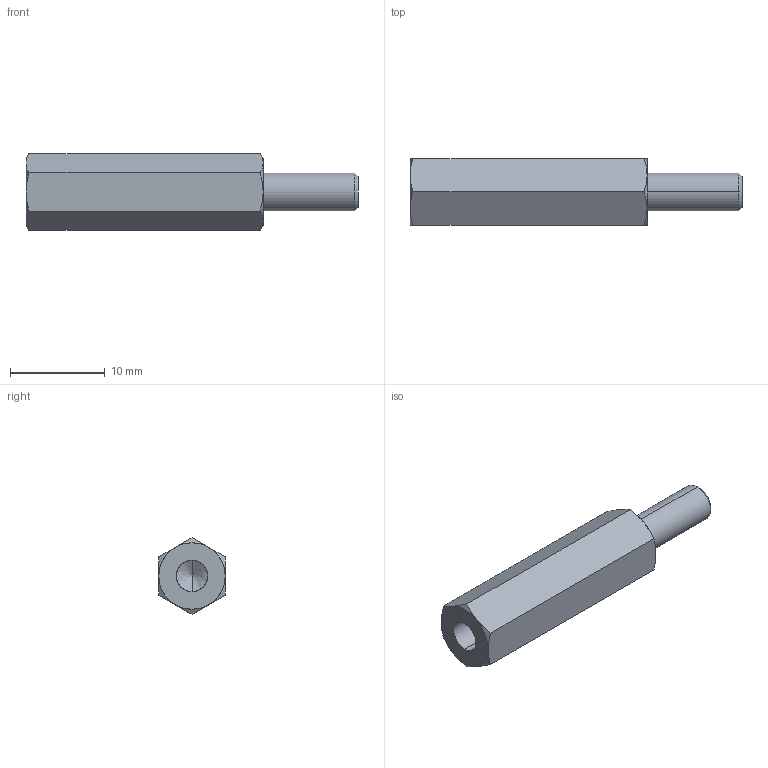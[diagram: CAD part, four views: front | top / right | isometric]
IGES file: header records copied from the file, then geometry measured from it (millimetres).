
Start section: SolidWorks IGES file using analytic representation for surfaces
Global section: file name: C:\Users\render1\Desktop\P0185_IGES\Default.igs; native system: SolidWorks 2009; preprocessor: SolidWorks 2009; author: render1; date: 130627.111220; units: millimetre
Bounding box: 35 x 7 x 8.08 mm (x, y, z)
Surface area: 915 mm2 (no closed solid volume)
Topology: 0 solids, 0 shells, 29 faces, 320 edges, 318 vertices
Faces by surface type: revolution 20, bspline 9
